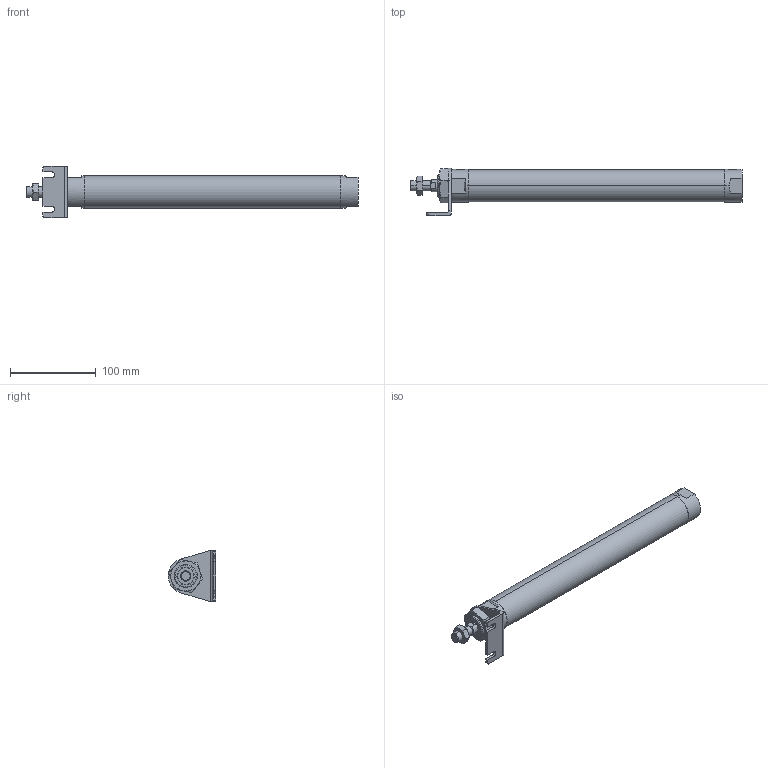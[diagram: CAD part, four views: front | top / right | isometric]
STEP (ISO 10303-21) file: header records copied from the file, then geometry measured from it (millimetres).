
FILE_DESCRIPTION (( 'STEP AP203' ), '1' );
FILE_NAME ('JGND2-32-250-L.STEP', '2016-08-04T03:02:00', ( '' ), ( '' ), 'SwSTEP 2.0', 'SolidWorks 2014', '' );
FILE_SCHEMA (( 'CONFIG_CONTROL_DESIGN' ));
Length unit declared in the file: millimetre
Products named in the file (5): JGND2-32-250-L; J#2-32-250(P); J#2-32-L
Assembly tree (4 placements, depth 2):
  JGND2-32-250-L
    J#2-32-250(P)
    (unnamed)
    (unnamed)
    J#2-32-L
Bounding box: 387 x 55.5 x 60 mm (x, y, z)
Volume: 403834.1 mm3; surface area: 57841.1 mm2
Topology: 4 solids, 4 shells, 116 faces, 273 edges, 167 vertices
Faces by surface type: plane 47, cylinder 32, torus 24, cone 13
Entity records: 4285 total; most frequent: CARTESIAN_POINT 1166, DIRECTION 548, ORIENTED_EDGE 538, EDGE_CURVE 269, AXIS2_PLACEMENT_3D 219, VERTEX_POINT 167, EDGE_LOOP 128, ADVANCED_FACE 116
